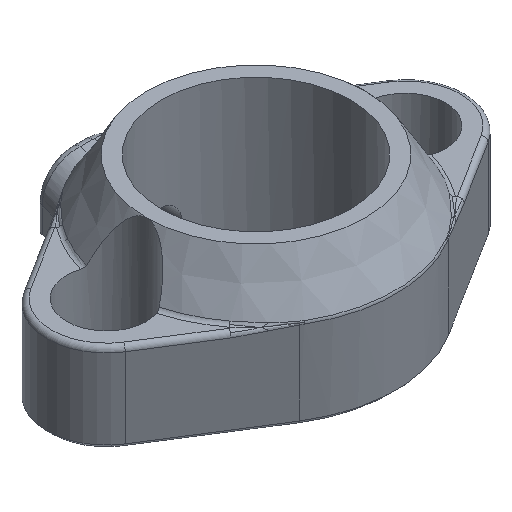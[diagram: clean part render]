
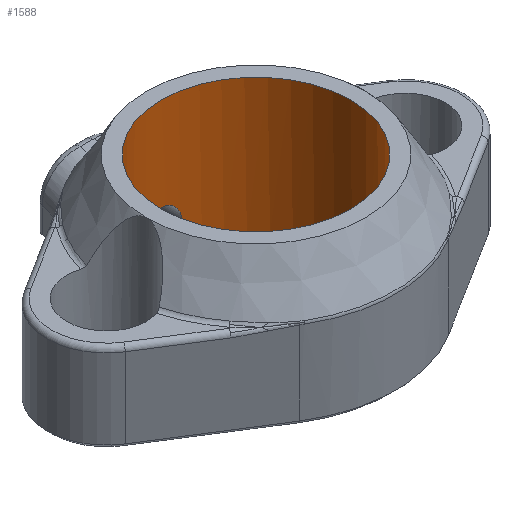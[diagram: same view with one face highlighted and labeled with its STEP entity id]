
A CAD part, isometric view. The second image highlights one B-rep face of the part: STEP entity #1588.
In plain terms, the highlighted cylindrical face has radius 9.5 mm (diameter 19 mm), a full revolution.
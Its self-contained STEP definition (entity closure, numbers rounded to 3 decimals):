
#113=LINE('',#7181,#186);
#117=LINE('',#7215,#190);
#148=LINE('',#7396,#221);
#186=VECTOR('',#2000,10.);
#190=VECTOR('',#2008,10.);
#221=VECTOR('',#2145,9.5);
#245=CYLINDRICAL_SURFACE('',#1760,9.5);
#333=FACE_OUTER_BOUND('',#430,.T.);
#430=EDGE_LOOP('',(#1407,#1408,#1409,#1410,#1411,#1412,#1413,#1414));
#507=CIRCLE('',#1726,9.5);
#508=CIRCLE('',#1727,9.5);
#523=CIRCLE('',#1761,9.5);
#593=B_SPLINE_CURVE_WITH_KNOTS('',3,(#7190,#7191,#7192,#7193,#7194,#7195,
#7196,#7197,#7198,#7199,#7200,#7201,#7202,#7203,#7204,#7205,#7206,#7207),
 .UNSPECIFIED.,.F.,.F.,(4,2,2,2,2,2,2,2,4),(0.,0.07,0.14,
0.21,0.28,0.349,0.419,
0.489,0.559),.UNSPECIFIED.);
#705=VERTEX_POINT('',#7178);
#706=VERTEX_POINT('',#7180);
#708=VERTEX_POINT('',#7188);
#710=VERTEX_POINT('',#7211);
#722=VERTEX_POINT('',#7308);
#743=VERTEX_POINT('',#7394);
#908=EDGE_CURVE('',#706,#705,#113,.T.);
#912=EDGE_CURVE('',#705,#708,#593,.T.);
#915=EDGE_CURVE('',#708,#710,#117,.T.);
#936=EDGE_CURVE('',#706,#722,#507,.T.);
#937=EDGE_CURVE('',#722,#710,#508,.T.);
#977=EDGE_CURVE('',#743,#743,#523,.T.);
#978=EDGE_CURVE('',#743,#722,#148,.T.);
#1407=ORIENTED_EDGE('',*,*,#977,.F.);
#1408=ORIENTED_EDGE('',*,*,#978,.T.);
#1409=ORIENTED_EDGE('',*,*,#936,.F.);
#1410=ORIENTED_EDGE('',*,*,#908,.T.);
#1411=ORIENTED_EDGE('',*,*,#912,.T.);
#1412=ORIENTED_EDGE('',*,*,#915,.T.);
#1413=ORIENTED_EDGE('',*,*,#937,.F.);
#1414=ORIENTED_EDGE('',*,*,#978,.F.);
#1588=ADVANCED_FACE('',(#333),#245,.F.);
#1726=AXIS2_PLACEMENT_3D('',#7309,#2050,#2051);
#1727=AXIS2_PLACEMENT_3D('',#7310,#2052,#2053);
#1760=AXIS2_PLACEMENT_3D('',#7393,#2141,#2142);
#1761=AXIS2_PLACEMENT_3D('',#7395,#2143,#2144);
#2000=DIRECTION('',(0.,0.,1.));
#2008=DIRECTION('',(0.,0.,-1.));
#2050=DIRECTION('center_axis',(0.,0.,1.));
#2051=DIRECTION('ref_axis',(1.,0.,0.));
#2052=DIRECTION('center_axis',(0.,0.,1.));
#2053=DIRECTION('ref_axis',(1.,0.,0.));
#2141=DIRECTION('center_axis',(0.,0.,1.));
#2142=DIRECTION('ref_axis',(1.,0.,0.));
#2143=DIRECTION('center_axis',(0.,0.,-1.));
#2144=DIRECTION('ref_axis',(1.,0.,0.));
#2145=DIRECTION('',(0.,0.,-1.));
#7178=CARTESIAN_POINT('',(-1.85,9.318,2.8));
#7180=CARTESIAN_POINT('',(-1.85,9.318,0.5));
#7181=CARTESIAN_POINT('',(-1.85,9.318,0.));
#7188=CARTESIAN_POINT('',(1.85,9.318,2.8));
#7190=CARTESIAN_POINT('Ctrl Pts',(-1.85,9.318,2.8));
#7191=CARTESIAN_POINT('Ctrl Pts',(-1.85,9.318,3.033));
#7192=CARTESIAN_POINT('Ctrl Pts',(-1.803,9.328,3.281));
#7193=CARTESIAN_POINT('Ctrl Pts',(-1.614,9.362,3.737));
#7194=CARTESIAN_POINT('Ctrl Pts',(-1.472,9.387,3.944));
#7195=CARTESIAN_POINT('Ctrl Pts',(-1.144,9.432,4.272));
#7196=CARTESIAN_POINT('Ctrl Pts',(-0.937,9.456,4.414));
#7197=CARTESIAN_POINT('Ctrl Pts',(-0.481,9.491,4.603));
#7198=CARTESIAN_POINT('Ctrl Pts',(-0.233,9.5,4.65));
#7199=CARTESIAN_POINT('Ctrl Pts',(0.233,9.5,4.65));
#7200=CARTESIAN_POINT('Ctrl Pts',(0.481,9.491,4.603));
#7201=CARTESIAN_POINT('Ctrl Pts',(0.937,9.456,4.414));
#7202=CARTESIAN_POINT('Ctrl Pts',(1.144,9.432,4.272));
#7203=CARTESIAN_POINT('Ctrl Pts',(1.472,9.387,3.944));
#7204=CARTESIAN_POINT('Ctrl Pts',(1.614,9.362,3.737));
#7205=CARTESIAN_POINT('Ctrl Pts',(1.803,9.328,3.281));
#7206=CARTESIAN_POINT('Ctrl Pts',(1.85,9.318,3.033));
#7207=CARTESIAN_POINT('Ctrl Pts',(1.85,9.318,2.8));
#7211=CARTESIAN_POINT('',(1.85,9.318,0.5));
#7215=CARTESIAN_POINT('',(1.85,9.318,0.));
#7308=CARTESIAN_POINT('',(-9.5,0.,0.5));
#7309=CARTESIAN_POINT('Origin',(0.,0.,0.5));
#7310=CARTESIAN_POINT('Origin',(0.,0.,0.5));
#7393=CARTESIAN_POINT('Origin',(0.,0.,0.));
#7394=CARTESIAN_POINT('',(-9.5,0.,14.));
#7395=CARTESIAN_POINT('Origin',(0.,0.,14.));
#7396=CARTESIAN_POINT('',(-9.5,0.,0.));
